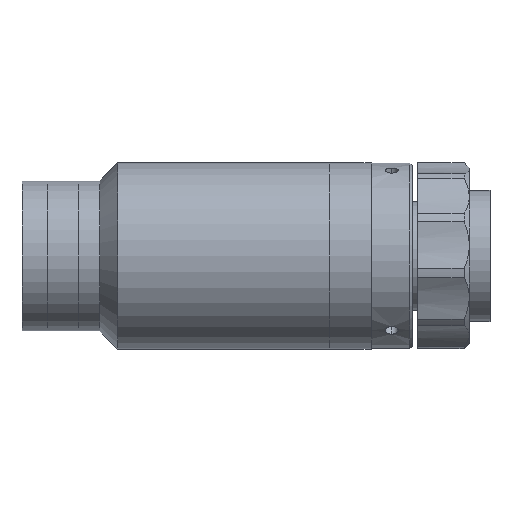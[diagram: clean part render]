
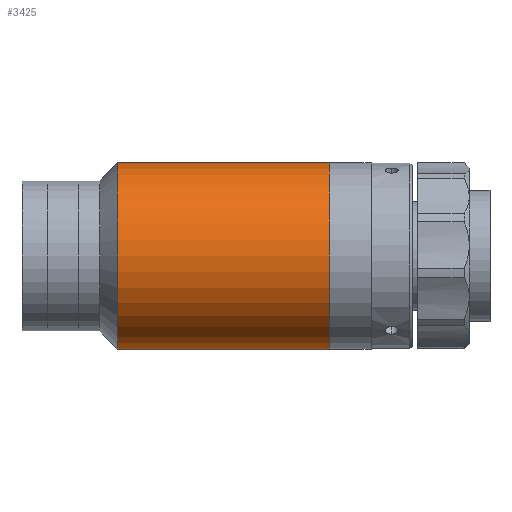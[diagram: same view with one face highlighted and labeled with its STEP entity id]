
A CAD part, front view. The second image highlights one B-rep face of the part: STEP entity #3425.
In plain terms, the highlighted cylindrical face has radius 18 mm (diameter 36 mm), a partial arc.
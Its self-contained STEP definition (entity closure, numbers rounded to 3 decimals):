
#69 = CARTESIAN_POINT ( 'NONE',  ( 0., 0., 0. ) ) ;
#168 = VERTEX_POINT ( 'NONE', #1419 ) ;
#317 = CIRCLE ( 'NONE', #2418, 18. ) ;
#328 = CARTESIAN_POINT ( 'NONE',  ( 18.5, 0., -18. ) ) ;
#363 = ORIENTED_EDGE ( 'NONE', *, *, #2898, .F. ) ;
#366 = ORIENTED_EDGE ( 'NONE', *, *, #3205, .T. ) ;
#402 = ORIENTED_EDGE ( 'NONE', *, *, #2962, .T. ) ;
#407 = ORIENTED_EDGE ( 'NONE', *, *, #3435, .F. ) ;
#528 = EDGE_LOOP ( 'NONE', ( #363, #366, #402, #407 ) ) ;
#766 = VERTEX_POINT ( 'NONE', #328 ) ;
#794 = VECTOR ( 'NONE', #2854, 1000. ) ;
#801 = LINE ( 'NONE', #1606, #794 ) ;
#962 = VECTOR ( 'NONE', #3023, 1000. ) ;
#1000 = LINE ( 'NONE', #2467, #962 ) ;
#1137 = CARTESIAN_POINT ( 'NONE',  ( 18.5, 0., 0. ) ) ;
#1221 = CARTESIAN_POINT ( 'NONE',  ( 59.5, 0., 0. ) ) ;
#1413 = DIRECTION ( 'NONE',  ( 0., 0., 1. ) ) ;
#1419 = CARTESIAN_POINT ( 'NONE',  ( 59.5, 0., -18. ) ) ;
#1502 = DIRECTION ( 'NONE',  ( 0., 0., 1. ) ) ;
#1606 = CARTESIAN_POINT ( 'NONE',  ( 0., 0., 18. ) ) ;
#1667 = DIRECTION ( 'NONE',  ( 0., 0., 1. ) ) ;
#1862 = AXIS2_PLACEMENT_3D ( 'NONE', #69, #2549, #1667 ) ;
#1889 = AXIS2_PLACEMENT_3D ( 'NONE', #1137, #3106, #1413 ) ;
#2418 = AXIS2_PLACEMENT_3D ( 'NONE', #1221, #3183, #1502 ) ;
#2467 = CARTESIAN_POINT ( 'NONE',  ( 0., 0., -18. ) ) ;
#2549 = DIRECTION ( 'NONE',  ( -1., 0., 0. ) ) ;
#2604 = VERTEX_POINT ( 'NONE', #3354 ) ;
#2705 = VERTEX_POINT ( 'NONE', #3180 ) ;
#2854 = DIRECTION ( 'NONE',  ( -1., 0., 0. ) ) ;
#2898 = EDGE_CURVE ( 'NONE', #168, #766, #1000, .T. ) ;
#2962 = EDGE_CURVE ( 'NONE', #2604, #2705, #801, .T. ) ;
#3023 = DIRECTION ( 'NONE',  ( -1., 0., 0. ) ) ;
#3106 = DIRECTION ( 'NONE',  ( -1., 0., 0. ) ) ;
#3180 = CARTESIAN_POINT ( 'NONE',  ( 18.5, 0., 18. ) ) ;
#3183 = DIRECTION ( 'NONE',  ( -1., 0., 0. ) ) ;
#3205 = EDGE_CURVE ( 'NONE', #168, #2604, #317, .T. ) ;
#3253 = CIRCLE ( 'NONE', #1889, 18. ) ;
#3284 = CYLINDRICAL_SURFACE ( 'NONE', #1862, 18. ) ;
#3324 = FACE_OUTER_BOUND ( 'NONE', #528, .T. ) ;
#3354 = CARTESIAN_POINT ( 'NONE',  ( 59.5, 0., 18. ) ) ;
#3425 = ADVANCED_FACE ( 'NONE', ( #3324 ), #3284, .T. ) ;
#3435 = EDGE_CURVE ( 'NONE', #766, #2705, #3253, .T. ) ;
